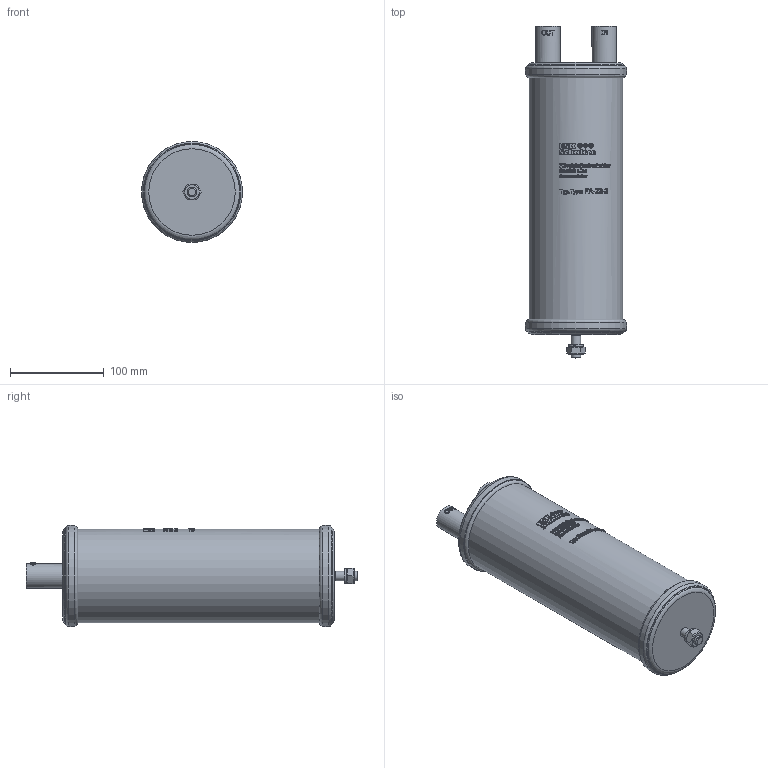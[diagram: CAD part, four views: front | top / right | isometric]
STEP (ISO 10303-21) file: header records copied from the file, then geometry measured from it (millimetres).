
FILE_DESCRIPTION(/* description */ (''),/* implementation_level */ '2;1');
FILE_NAME(/* name */ 'P:\FA\FA-22-2\FA-22-2.stp',/* time_stamp */ '2017-10-04T15:57:24+02:00',/* author */ ('neufeld'),/* organization */ (''),/* preprocessor_version */ 'ST-DEVELOPER v16.1',/* originating_system */ 'Autodesk Inventor 2016',/* authorisation */ '');
FILE_SCHEMA (('AUTOMOTIVE_DESIGN { 1 0 10303 214 3 1 1 }'));
Products named in the file (2): FA-22-2; FA-22-2_1
Assembly tree (1 placements, depth 2):
  FA-22-2_1
    FA-22-2
Bounding box: 107.5 x 353.2 x 107.5 mm (x, y, z)
Volume: 2330275.5 mm3; surface area: 121027 mm2
Topology: 2 solids, 2 shells, 1276 faces, 3462 edges, 2303 vertices
Faces by surface type: plane 685, bspline 454, cylinder 121, torus 10, cone 6
Full cylindrical faces by diameter (mm): 10 x2, 22.4 x2, 26 x2, 100 x1, 105.983 x1, 107.5 x2
Entity records: 49334 total; most frequent: CARTESIAN_POINT 19510, ORIENTED_EDGE 6864, DIRECTION 5047, EDGE_CURVE 3432, VERTEX_POINT 2299, AXIS2_PLACEMENT_3D 1710, LINE 1627, VECTOR 1627
